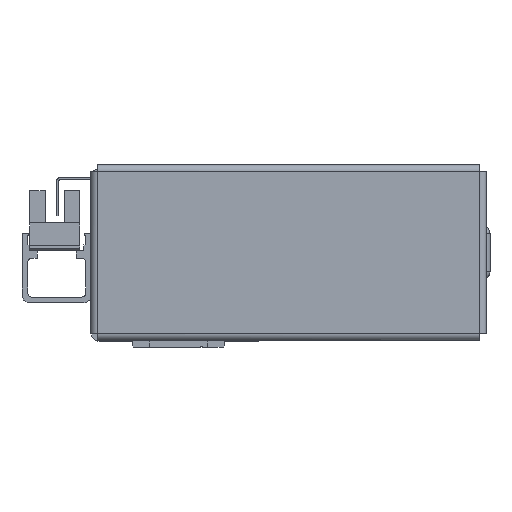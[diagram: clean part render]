
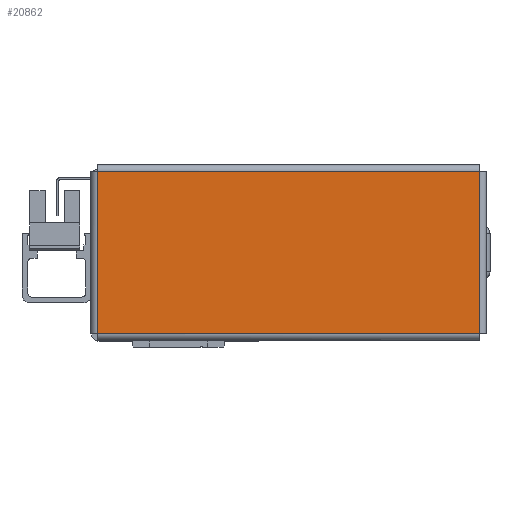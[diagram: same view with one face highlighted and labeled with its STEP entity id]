
A CAD part, left-side view. The second image highlights one B-rep face of the part: STEP entity #20862.
In plain terms, the highlighted planar face has unit normal (-1, 0, 0) as drawn and (0, 0, -1) by its records, which use the part's own axes.
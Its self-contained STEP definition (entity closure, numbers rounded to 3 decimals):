
#74 = CARTESIAN_POINT ( 'NONE',  ( 49.513, -21.013, -1. ) ) ;
#354 = PLANE ( 'NONE',  #7113 ) ;
#1073 = DIRECTION ( 'NONE',  ( -1., 0., 0. ) ) ;
#1279 = EDGE_CURVE ( 'NONE', #12529, #7642, #10260, .T. ) ;
#1319 = EDGE_CURVE ( 'NONE', #7642, #29243, #14807, .T. ) ;
#1473 = EDGE_CURVE ( 'NONE', #29243, #29742, #24666, .T. ) ;
#1528 = EDGE_CURVE ( 'NONE', #29742, #12529, #8193, .T. ) ;
#2393 = ORIENTED_EDGE ( 'NONE', *, *, #1279, .T. ) ;
#3201 = VECTOR ( 'NONE', #23755, 1000. ) ;
#3597 = VECTOR ( 'NONE', #27190, 1000. ) ;
#5327 = CARTESIAN_POINT ( 'NONE',  ( -49.513, -21.043, -1. ) ) ;
#6350 = CARTESIAN_POINT ( 'NONE',  ( -49.513, -21.013, -1. ) ) ;
#7113 = AXIS2_PLACEMENT_3D ( 'NONE', #10950, #8424, #26832 ) ;
#7642 = VERTEX_POINT ( 'NONE', #23624 ) ;
#8193 = LINE ( 'NONE', #14294, #28376 ) ;
#8424 = DIRECTION ( 'NONE',  ( 0., 0., 1. ) ) ;
#8534 = EDGE_LOOP ( 'NONE', ( #2393, #27142, #31341, #19735 ) ) ;
#8625 = VECTOR ( 'NONE', #15926, 1000. ) ;
#10260 = LINE ( 'NONE', #5327, #3201 ) ;
#10950 = CARTESIAN_POINT ( 'NONE',  ( 0., 0., -1. ) ) ;
#11429 = CARTESIAN_POINT ( 'NONE',  ( 49.513, 21.043, -1. ) ) ;
#12529 = VERTEX_POINT ( 'NONE', #6350 ) ;
#14294 = CARTESIAN_POINT ( 'NONE',  ( 49.543, -21.013, -1. ) ) ;
#14807 = LINE ( 'NONE', #26509, #8625 ) ;
#15926 = DIRECTION ( 'NONE',  ( 1., 0., 0. ) ) ;
#19735 = ORIENTED_EDGE ( 'NONE', *, *, #1528, .T. ) ;
#20862 = ADVANCED_FACE ( 'NONE', ( #29044 ), #354, .F. ) ;
#21863 = CARTESIAN_POINT ( 'NONE',  ( 49.513, 21.013, -1. ) ) ;
#23624 = CARTESIAN_POINT ( 'NONE',  ( -49.513, 21.013, -1. ) ) ;
#23755 = DIRECTION ( 'NONE',  ( 0., 1., 0. ) ) ;
#24666 = LINE ( 'NONE', #11429, #3597 ) ;
#26509 = CARTESIAN_POINT ( 'NONE',  ( -49.543, 21.013, -1. ) ) ;
#26832 = DIRECTION ( 'NONE',  ( 1., 0., 0. ) ) ;
#27142 = ORIENTED_EDGE ( 'NONE', *, *, #1319, .T. ) ;
#27190 = DIRECTION ( 'NONE',  ( 0., -1., 0. ) ) ;
#28376 = VECTOR ( 'NONE', #1073, 1000. ) ;
#29044 = FACE_OUTER_BOUND ( 'NONE', #8534, .T. ) ;
#29243 = VERTEX_POINT ( 'NONE', #21863 ) ;
#29742 = VERTEX_POINT ( 'NONE', #74 ) ;
#31341 = ORIENTED_EDGE ( 'NONE', *, *, #1473, .T. ) ;
